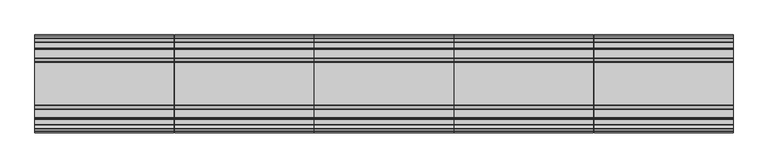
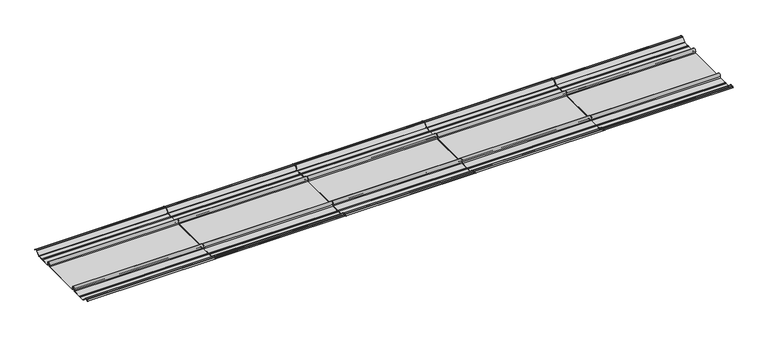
"""IFC4 building model written with IfcOpenShell, lengths in millimetres: proxy geometry, Xlath-LR : Xlath-LR."""

from ifc_helpers import new_model, si_unit, point, frame, frame_2d, origin, place, context, project, spatial, polyline, circle_curve, trimmed, segment, composite_curve, outline, extrude, source, transform, mapped, element, save


def generic_models_709201b5(model_context):
    return source(origin(), model_context, "Body", "SweptSolid", [
        extrude(outline(composite_curve([segment(polyline([(-4.021536, 17.692427), (0.0, 13.8209287), (-0.5628134, 13.2581153), (-4.8173305, 17.3539026)]), True, "CONTINUOUS"), segment(trimmed(circle_curve(frame_2d((-6.6934261, 15.4051)), 2.7051), [point((-4.8173305, 17.3539026))], [point((-6.6934261, 18.1102))], True, "CARTESIAN"), True, "CONTINUOUS"), segment(polyline([(-6.6934261, 18.1102), (-13.8817457, 18.1102)]), True, "CONTINUOUS"), segment(trimmed(circle_curve(frame_2d((-13.8817457, 15.4051)), 2.7051), [point((-13.8817457, 18.1102))], [point((-15.8059623, 17.3064039))], True, "CARTESIAN"), True, "CONTINUOUS"), segment(polyline([(-15.8059623, 17.3064039), (-31.9741011, 0.9434226)]), True, "CONTINUOUS"), segment(trimmed(circle_curve(frame_2d((-34.2325712, 3.175)), 3.175), [point((-31.9741011, 0.9434226))], [point((-34.2325712, 0.0))], False, "CARTESIAN"), True, "CONTINUOUS"), segment(polyline([(-34.2325712, 0.0), (-57.3486405, 0.0)]), True, "CONTINUOUS"), segment(trimmed(circle_curve(frame_2d((-57.3486405, 3.175)), 3.175), [point((-57.3486405, 0.0))], [point((-59.3419174, 0.70367))], False, "CARTESIAN"), True, "CONTINUOUS"), segment(trimmed(circle_curve(frame_2d((-61.3351943, -1.7676601)), 3.175), [point((-59.3419174, 0.70367))], [point((-63.3284712, 0.70367))], True, "CARTESIAN"), True, "CONTINUOUS"), segment(trimmed(circle_curve(frame_2d((-65.3217481, 3.175)), 3.175), [point((-63.3284712, 0.70367))], [point((-65.3217481, 0.0))], False, "CARTESIAN"), True, "CONTINUOUS"), segment(polyline([(-65.3217481, 0.0), (-102.59972, 0.0)]), True, "CONTINUOUS"), segment(trimmed(circle_curve(frame_2d((-102.59972, 3.3362305)), 3.3362305), [point((-102.59972, 0.0))], [point((-105.2911698, 5.3076593))], False, "CARTESIAN"), True, "CONTINUOUS"), segment(trimmed(circle_curve(frame_2d((-111.8031627, 10.0775533)), 8.0720469), [point((-105.2911698, 5.3076593))], [point((-118.3151555, 5.3076593))], True, "CARTESIAN"), True, "CONTINUOUS"), segment(trimmed(circle_curve(frame_2d((-121.0066054, 3.3362305)), 3.3362305), [point((-118.3151555, 5.3076593))], [point((-121.0066054, 0.0))], False, "CARTESIAN"), True, "CONTINUOUS"), segment(polyline([(-121.0066054, 0.0), (-306.0308946, 0.0)]), True, "CONTINUOUS"), segment(trimmed(circle_curve(frame_2d((-306.0308946, 3.3362305)), 3.3362305), [point((-306.0308946, 0.0))], [point((-308.7223445, 5.3076593))], False, "CARTESIAN"), True, "CONTINUOUS"), segment(trimmed(circle_curve(frame_2d((-315.2343373, 10.0775533)), 8.0720469), [point((-308.7223445, 5.3076593))], [point((-321.7463302, 5.3076593))], True, "CARTESIAN"), True, "CONTINUOUS"), segment(trimmed(circle_curve(frame_2d((-324.43778, 3.3362305)), 3.3362305), [point((-321.7463302, 5.3076593))], [point((-324.43778, 0.0))], False, "CARTESIAN"), True, "CONTINUOUS"), segment(polyline([(-324.43778, 0.0), (-361.7157519, 0.0)]), True, "CONTINUOUS"), segment(trimmed(circle_curve(frame_2d((-361.7157519, 3.175)), 3.175), [point((-361.7157519, 0.0))], [point((-363.7090288, 0.70367))], False, "CARTESIAN"), True, "CONTINUOUS"), segment(trimmed(circle_curve(frame_2d((-365.7023057, -1.7676601)), 3.175), [point((-363.7090288, 0.70367))], [point((-367.6955826, 0.70367))], True, "CARTESIAN"), True, "CONTINUOUS"), segment(trimmed(circle_curve(frame_2d((-369.6888595, 3.175)), 3.175), [point((-367.6955826, 0.70367))], [point((-369.6888595, 0.0))], False, "CARTESIAN"), True, "CONTINUOUS"), segment(polyline([(-369.6888595, 0.0), (-391.0183557, 0.0)]), True, "CONTINUOUS"), segment(trimmed(circle_curve(frame_2d((-391.0183557, 3.175)), 3.175), [point((-391.0183557, 0.0))], [point((-393.2768259, 0.9434226))], False, "CARTESIAN"), True, "CONTINUOUS"), segment(polyline([(-393.2768259, 0.9434226), (-409.9092693, 17.7763039)]), True, "CONTINUOUS"), segment(trimmed(circle_curve(frame_2d((-411.8334859, 15.875)), 2.7051), [point((-409.9092693, 17.7763039))], [point((-411.8334859, 18.5801))], True, "CARTESIAN"), True, "CONTINUOUS"), segment(polyline([(-411.8334859, 18.5801), (-420.3440739, 18.5801)]), True, "CONTINUOUS"), segment(trimmed(circle_curve(frame_2d((-420.3440739, 15.875)), 2.7051), [point((-420.3440739, 18.5801))], [point((-422.2201695, 17.8238026))], True, "CARTESIAN"), True, "CONTINUOUS"), segment(polyline([(-422.2201695, 17.8238026), (-426.4855845, 13.717524), (-427.0483979, 14.2803374), (-423.015964, 18.162327)]), True, "CONTINUOUS"), segment(trimmed(circle_curve(frame_2d((-420.8139739, 15.875)), 3.175), [point((-423.015964, 18.162327))], [point((-420.8139739, 19.05))], False, "CARTESIAN"), True, "CONTINUOUS"), segment(polyline([(-420.8139739, 19.05), (-411.8334859, 19.05)]), True, "CONTINUOUS"), segment(trimmed(circle_curve(frame_2d((-411.8334859, 15.875)), 3.175), [point((-411.8334859, 19.05))], [point((-409.5750157, 18.1065774))], False, "CARTESIAN"), True, "CONTINUOUS"), segment(polyline([(-409.5750157, 18.1065774), (-392.9425723, 1.2736961)]), True, "CONTINUOUS"), segment(trimmed(circle_curve(frame_2d((-391.0183557, 3.175)), 2.7051), [point((-392.9425723, 1.2736961))], [point((-391.0183557, 0.4699))], True, "CARTESIAN"), True, "CONTINUOUS"), segment(polyline([(-391.0183557, 0.4699), (-369.8514296, 0.4699)]), True, "CONTINUOUS"), segment(trimmed(circle_curve(frame_2d((-369.8514296, 3.6449)), 3.175), [point((-369.8514296, 0.4699))], [point((-367.9198077, 1.1250862))], True, "CARTESIAN"), True, "CONTINUOUS"), segment(trimmed(circle_curve(frame_2d((-365.7023057, -1.7676601)), 3.6449), [point((-367.9198077, 1.1250862))], [point((-363.4848037, 1.1250862))], False, "CARTESIAN"), True, "CONTINUOUS"), segment(trimmed(circle_curve(frame_2d((-361.5531818, 3.6449)), 3.175), [point((-363.4848037, 1.1250862))], [point((-361.5531818, 0.4699))], True, "CARTESIAN"), True, "CONTINUOUS"), segment(polyline([(-361.5531818, 0.4699), (-324.43778, 0.4699)]), True, "CONTINUOUS"), segment(trimmed(circle_curve(frame_2d((-324.43778, 3.3362305)), 2.8663305), [point((-324.43778, 0.4699))], [point((-322.1254144, 5.0299883))], True, "CARTESIAN"), True, "CONTINUOUS"), segment(trimmed(circle_curve(frame_2d((-315.2343373, 10.0775533)), 8.5419469), [point((-322.1254144, 5.0299883))], [point((-308.3432603, 5.0299883))], False, "CARTESIAN"), True, "CONTINUOUS"), segment(trimmed(circle_curve(frame_2d((-306.0308946, 3.3362305)), 2.8663305), [point((-308.3432603, 5.0299883))], [point((-306.0308946, 0.4699))], True, "CARTESIAN"), True, "CONTINUOUS"), segment(polyline([(-306.0308946, 0.4699), (-121.0066054, 0.4699)]), True, "CONTINUOUS"), segment(trimmed(circle_curve(frame_2d((-121.0066054, 3.3362305)), 2.8663305), [point((-121.0066054, 0.4699))], [point((-118.6942397, 5.0299883))], True, "CARTESIAN"), True, "CONTINUOUS"), segment(trimmed(circle_curve(frame_2d((-111.8031627, 10.0775533)), 8.5419469), [point((-118.6942397, 5.0299883))], [point((-104.9120856, 5.0299883))], False, "CARTESIAN"), True, "CONTINUOUS"), segment(trimmed(circle_curve(frame_2d((-102.59972, 3.3362305)), 2.8663305), [point((-104.9120856, 5.0299883))], [point((-102.59972, 0.4699))], True, "CARTESIAN"), True, "CONTINUOUS"), segment(polyline([(-102.59972, 0.4699), (-65.4843182, 0.4699)]), True, "CONTINUOUS"), segment(trimmed(circle_curve(frame_2d((-65.4843182, 3.6449)), 3.175), [point((-65.4843182, 0.4699))], [point((-63.5526963, 1.1250862))], True, "CARTESIAN"), True, "CONTINUOUS"), segment(trimmed(circle_curve(frame_2d((-61.3351943, -1.7676601)), 3.6449), [point((-63.5526963, 1.1250862))], [point((-59.1176923, 1.1250862))], False, "CARTESIAN"), True, "CONTINUOUS"), segment(trimmed(circle_curve(frame_2d((-57.1860704, 3.6449)), 3.175), [point((-59.1176923, 1.1250862))], [point((-57.1860704, 0.4699))], True, "CARTESIAN"), True, "CONTINUOUS"), segment(polyline([(-57.1860704, 0.4699), (-34.2325712, 0.4699)]), True, "CONTINUOUS"), segment(trimmed(circle_curve(frame_2d((-34.2325712, 3.175)), 2.7051), [point((-34.2325712, 0.4699))], [point((-32.3083547, 1.2736961))], True, "CARTESIAN"), True, "CONTINUOUS"), segment(polyline([(-32.3083547, 1.2736961), (-16.1402159, 17.6366774)]), True, "CONTINUOUS"), segment(trimmed(circle_curve(frame_2d((-13.8817457, 15.4051)), 3.175), [point((-16.1402159, 17.6366774))], [point((-13.8817457, 18.5801))], False, "CARTESIAN"), True, "CONTINUOUS"), segment(polyline([(-13.8817457, 18.5801), (-6.2235261, 18.5801)]), True, "CONTINUOUS"), segment(trimmed(circle_curve(frame_2d((-6.2235261, 15.4051)), 3.175), [point((-6.2235261, 18.5801))], [point((-4.021536, 17.692427))], False, "CARTESIAN"), True, "CONTINUOUS")], self_intersect=False)), frame((2438.4, 0.0, 0.0), z_axis=(1.0, 0.0, 0.0), x_axis=(0.0, 1.0, 0.0)), (0.0, 0.0, 1.0), 606.425),
        extrude(outline(composite_curve([segment(polyline([(-4.021536, 17.692427), (0.0, 13.8209287), (-0.5628134, 13.2581153), (-4.8173305, 17.3539026)]), True, "CONTINUOUS"), segment(trimmed(circle_curve(frame_2d((-6.6934261, 15.4051)), 2.7051), [point((-4.8173305, 17.3539026))], [point((-6.6934261, 18.1102))], True, "CARTESIAN"), True, "CONTINUOUS"), segment(polyline([(-6.6934261, 18.1102), (-13.8817457, 18.1102)]), True, "CONTINUOUS"), segment(trimmed(circle_curve(frame_2d((-13.8817457, 15.4051)), 2.7051), [point((-13.8817457, 18.1102))], [point((-15.8059623, 17.3064039))], True, "CARTESIAN"), True, "CONTINUOUS"), segment(polyline([(-15.8059623, 17.3064039), (-31.9741011, 0.9434226)]), True, "CONTINUOUS"), segment(trimmed(circle_curve(frame_2d((-34.2325712, 3.175)), 3.175), [point((-31.9741011, 0.9434226))], [point((-34.2325712, 0.0))], False, "CARTESIAN"), True, "CONTINUOUS"), segment(polyline([(-34.2325712, 0.0), (-57.3486405, 0.0)]), True, "CONTINUOUS"), segment(trimmed(circle_curve(frame_2d((-57.3486405, 3.175)), 3.175), [point((-57.3486405, 0.0))], [point((-59.3419174, 0.70367))], False, "CARTESIAN"), True, "CONTINUOUS"), segment(trimmed(circle_curve(frame_2d((-61.3351943, -1.7676601)), 3.175), [point((-59.3419174, 0.70367))], [point((-63.3284712, 0.70367))], True, "CARTESIAN"), True, "CONTINUOUS"), segment(trimmed(circle_curve(frame_2d((-65.3217481, 3.175)), 3.175), [point((-63.3284712, 0.70367))], [point((-65.3217481, 0.0))], False, "CARTESIAN"), True, "CONTINUOUS"), segment(polyline([(-65.3217481, 0.0), (-102.59972, 0.0)]), True, "CONTINUOUS"), segment(trimmed(circle_curve(frame_2d((-102.59972, 3.3362305)), 3.3362305), [point((-102.59972, 0.0))], [point((-105.2911698, 5.3076593))], False, "CARTESIAN"), True, "CONTINUOUS"), segment(trimmed(circle_curve(frame_2d((-111.8031627, 10.0775533)), 8.0720469), [point((-105.2911698, 5.3076593))], [point((-118.3151555, 5.3076593))], True, "CARTESIAN"), True, "CONTINUOUS"), segment(trimmed(circle_curve(frame_2d((-121.0066054, 3.3362305)), 3.3362305), [point((-118.3151555, 5.3076593))], [point((-121.0066054, 0.0))], False, "CARTESIAN"), True, "CONTINUOUS"), segment(polyline([(-121.0066054, 0.0), (-306.0308946, 0.0)]), True, "CONTINUOUS"), segment(trimmed(circle_curve(frame_2d((-306.0308946, 3.3362305)), 3.3362305), [point((-306.0308946, 0.0))], [point((-308.7223445, 5.3076593))], False, "CARTESIAN"), True, "CONTINUOUS"), segment(trimmed(circle_curve(frame_2d((-315.2343373, 10.0775533)), 8.0720469), [point((-308.7223445, 5.3076593))], [point((-321.7463302, 5.3076593))], True, "CARTESIAN"), True, "CONTINUOUS"), segment(trimmed(circle_curve(frame_2d((-324.43778, 3.3362305)), 3.3362305), [point((-321.7463302, 5.3076593))], [point((-324.43778, 0.0))], False, "CARTESIAN"), True, "CONTINUOUS"), segment(polyline([(-324.43778, 0.0), (-361.7157519, 0.0)]), True, "CONTINUOUS"), segment(trimmed(circle_curve(frame_2d((-361.7157519, 3.175)), 3.175), [point((-361.7157519, 0.0))], [point((-363.7090288, 0.70367))], False, "CARTESIAN"), True, "CONTINUOUS"), segment(trimmed(circle_curve(frame_2d((-365.7023057, -1.7676601)), 3.175), [point((-363.7090288, 0.70367))], [point((-367.6955826, 0.70367))], True, "CARTESIAN"), True, "CONTINUOUS"), segment(trimmed(circle_curve(frame_2d((-369.6888595, 3.175)), 3.175), [point((-367.6955826, 0.70367))], [point((-369.6888595, 0.0))], False, "CARTESIAN"), True, "CONTINUOUS"), segment(polyline([(-369.6888595, 0.0), (-391.0183557, 0.0)]), True, "CONTINUOUS"), segment(trimmed(circle_curve(frame_2d((-391.0183557, 3.175)), 3.175), [point((-391.0183557, 0.0))], [point((-393.2768259, 0.9434226))], False, "CARTESIAN"), True, "CONTINUOUS"), segment(polyline([(-393.2768259, 0.9434226), (-409.9092693, 17.7763039)]), True, "CONTINUOUS"), segment(trimmed(circle_curve(frame_2d((-411.8334859, 15.875)), 2.7051), [point((-409.9092693, 17.7763039))], [point((-411.8334859, 18.5801))], True, "CARTESIAN"), True, "CONTINUOUS"), segment(polyline([(-411.8334859, 18.5801), (-420.3440739, 18.5801)]), True, "CONTINUOUS"), segment(trimmed(circle_curve(frame_2d((-420.3440739, 15.875)), 2.7051), [point((-420.3440739, 18.5801))], [point((-422.2201695, 17.8238026))], True, "CARTESIAN"), True, "CONTINUOUS"), segment(polyline([(-422.2201695, 17.8238026), (-426.4855845, 13.717524), (-427.0483979, 14.2803374), (-423.015964, 18.162327)]), True, "CONTINUOUS"), segment(trimmed(circle_curve(frame_2d((-420.8139739, 15.875)), 3.175), [point((-423.015964, 18.162327))], [point((-420.8139739, 19.05))], False, "CARTESIAN"), True, "CONTINUOUS"), segment(polyline([(-420.8139739, 19.05), (-411.8334859, 19.05)]), True, "CONTINUOUS"), segment(trimmed(circle_curve(frame_2d((-411.8334859, 15.875)), 3.175), [point((-411.8334859, 19.05))], [point((-409.5750157, 18.1065774))], False, "CARTESIAN"), True, "CONTINUOUS"), segment(polyline([(-409.5750157, 18.1065774), (-392.9425723, 1.2736961)]), True, "CONTINUOUS"), segment(trimmed(circle_curve(frame_2d((-391.0183557, 3.175)), 2.7051), [point((-392.9425723, 1.2736961))], [point((-391.0183557, 0.4699))], True, "CARTESIAN"), True, "CONTINUOUS"), segment(polyline([(-391.0183557, 0.4699), (-369.8514296, 0.4699)]), True, "CONTINUOUS"), segment(trimmed(circle_curve(frame_2d((-369.8514296, 3.6449)), 3.175), [point((-369.8514296, 0.4699))], [point((-367.9198077, 1.1250862))], True, "CARTESIAN"), True, "CONTINUOUS"), segment(trimmed(circle_curve(frame_2d((-365.7023057, -1.7676601)), 3.6449), [point((-367.9198077, 1.1250862))], [point((-363.4848037, 1.1250862))], False, "CARTESIAN"), True, "CONTINUOUS"), segment(trimmed(circle_curve(frame_2d((-361.5531818, 3.6449)), 3.175), [point((-363.4848037, 1.1250862))], [point((-361.5531818, 0.4699))], True, "CARTESIAN"), True, "CONTINUOUS"), segment(polyline([(-361.5531818, 0.4699), (-324.43778, 0.4699)]), True, "CONTINUOUS"), segment(trimmed(circle_curve(frame_2d((-324.43778, 3.3362305)), 2.8663305), [point((-324.43778, 0.4699))], [point((-322.1254144, 5.0299883))], True, "CARTESIAN"), True, "CONTINUOUS"), segment(trimmed(circle_curve(frame_2d((-315.2343373, 10.0775533)), 8.5419469), [point((-322.1254144, 5.0299883))], [point((-308.3432603, 5.0299883))], False, "CARTESIAN"), True, "CONTINUOUS"), segment(trimmed(circle_curve(frame_2d((-306.0308946, 3.3362305)), 2.8663305), [point((-308.3432603, 5.0299883))], [point((-306.0308946, 0.4699))], True, "CARTESIAN"), True, "CONTINUOUS"), segment(polyline([(-306.0308946, 0.4699), (-121.0066054, 0.4699)]), True, "CONTINUOUS"), segment(trimmed(circle_curve(frame_2d((-121.0066054, 3.3362305)), 2.8663305), [point((-121.0066054, 0.4699))], [point((-118.6942397, 5.0299883))], True, "CARTESIAN"), True, "CONTINUOUS"), segment(trimmed(circle_curve(frame_2d((-111.8031627, 10.0775533)), 8.5419469), [point((-118.6942397, 5.0299883))], [point((-104.9120856, 5.0299883))], False, "CARTESIAN"), True, "CONTINUOUS"), segment(trimmed(circle_curve(frame_2d((-102.59972, 3.3362305)), 2.8663305), [point((-104.9120856, 5.0299883))], [point((-102.59972, 0.4699))], True, "CARTESIAN"), True, "CONTINUOUS"), segment(polyline([(-102.59972, 0.4699), (-65.4843182, 0.4699)]), True, "CONTINUOUS"), segment(trimmed(circle_curve(frame_2d((-65.4843182, 3.6449)), 3.175), [point((-65.4843182, 0.4699))], [point((-63.5526963, 1.1250862))], True, "CARTESIAN"), True, "CONTINUOUS"), segment(trimmed(circle_curve(frame_2d((-61.3351943, -1.7676601)), 3.6449), [point((-63.5526963, 1.1250862))], [point((-59.1176923, 1.1250862))], False, "CARTESIAN"), True, "CONTINUOUS"), segment(trimmed(circle_curve(frame_2d((-57.1860704, 3.6449)), 3.175), [point((-59.1176923, 1.1250862))], [point((-57.1860704, 0.4699))], True, "CARTESIAN"), True, "CONTINUOUS"), segment(polyline([(-57.1860704, 0.4699), (-34.2325712, 0.4699)]), True, "CONTINUOUS"), segment(trimmed(circle_curve(frame_2d((-34.2325712, 3.175)), 2.7051), [point((-34.2325712, 0.4699))], [point((-32.3083547, 1.2736961))], True, "CARTESIAN"), True, "CONTINUOUS"), segment(polyline([(-32.3083547, 1.2736961), (-16.1402159, 17.6366774)]), True, "CONTINUOUS"), segment(trimmed(circle_curve(frame_2d((-13.8817457, 15.4051)), 3.175), [point((-16.1402159, 17.6366774))], [point((-13.8817457, 18.5801))], False, "CARTESIAN"), True, "CONTINUOUS"), segment(polyline([(-13.8817457, 18.5801), (-6.2235261, 18.5801)]), True, "CONTINUOUS"), segment(trimmed(circle_curve(frame_2d((-6.2235261, 15.4051)), 3.175), [point((-6.2235261, 18.5801))], [point((-4.021536, 17.692427))], False, "CARTESIAN"), True, "CONTINUOUS")], self_intersect=False)), frame((1828.8, 0.0, 0.0), z_axis=(1.0, 0.0, 0.0), x_axis=(0.0, 1.0, 0.0)), (0.0, 0.0, 1.0), 606.425),
        extrude(outline(composite_curve([segment(polyline([(-4.021536, 17.692427), (0.0, 13.8209287), (-0.5628134, 13.2581153), (-4.8173305, 17.3539026)]), True, "CONTINUOUS"), segment(trimmed(circle_curve(frame_2d((-6.6934261, 15.4051)), 2.7051), [point((-4.8173305, 17.3539026))], [point((-6.6934261, 18.1102))], True, "CARTESIAN"), True, "CONTINUOUS"), segment(polyline([(-6.6934261, 18.1102), (-13.8817457, 18.1102)]), True, "CONTINUOUS"), segment(trimmed(circle_curve(frame_2d((-13.8817457, 15.4051)), 2.7051), [point((-13.8817457, 18.1102))], [point((-15.8059623, 17.3064039))], True, "CARTESIAN"), True, "CONTINUOUS"), segment(polyline([(-15.8059623, 17.3064039), (-31.9741011, 0.9434226)]), True, "CONTINUOUS"), segment(trimmed(circle_curve(frame_2d((-34.2325712, 3.175)), 3.175), [point((-31.9741011, 0.9434226))], [point((-34.2325712, 0.0))], False, "CARTESIAN"), True, "CONTINUOUS"), segment(polyline([(-34.2325712, 0.0), (-57.3486405, 0.0)]), True, "CONTINUOUS"), segment(trimmed(circle_curve(frame_2d((-57.3486405, 3.175)), 3.175), [point((-57.3486405, 0.0))], [point((-59.3419174, 0.70367))], False, "CARTESIAN"), True, "CONTINUOUS"), segment(trimmed(circle_curve(frame_2d((-61.3351943, -1.7676601)), 3.175), [point((-59.3419174, 0.70367))], [point((-63.3284712, 0.70367))], True, "CARTESIAN"), True, "CONTINUOUS"), segment(trimmed(circle_curve(frame_2d((-65.3217481, 3.175)), 3.175), [point((-63.3284712, 0.70367))], [point((-65.3217481, 0.0))], False, "CARTESIAN"), True, "CONTINUOUS"), segment(polyline([(-65.3217481, 0.0), (-102.59972, 0.0)]), True, "CONTINUOUS"), segment(trimmed(circle_curve(frame_2d((-102.59972, 3.3362305)), 3.3362305), [point((-102.59972, 0.0))], [point((-105.2911698, 5.3076593))], False, "CARTESIAN"), True, "CONTINUOUS"), segment(trimmed(circle_curve(frame_2d((-111.8031627, 10.0775533)), 8.0720469), [point((-105.2911698, 5.3076593))], [point((-118.3151555, 5.3076593))], True, "CARTESIAN"), True, "CONTINUOUS"), segment(trimmed(circle_curve(frame_2d((-121.0066054, 3.3362305)), 3.3362305), [point((-118.3151555, 5.3076593))], [point((-121.0066054, 0.0))], False, "CARTESIAN"), True, "CONTINUOUS"), segment(polyline([(-121.0066054, 0.0), (-306.0308946, 0.0)]), True, "CONTINUOUS"), segment(trimmed(circle_curve(frame_2d((-306.0308946, 3.3362305)), 3.3362305), [point((-306.0308946, 0.0))], [point((-308.7223445, 5.3076593))], False, "CARTESIAN"), True, "CONTINUOUS"), segment(trimmed(circle_curve(frame_2d((-315.2343373, 10.0775533)), 8.0720469), [point((-308.7223445, 5.3076593))], [point((-321.7463302, 5.3076593))], True, "CARTESIAN"), True, "CONTINUOUS"), segment(trimmed(circle_curve(frame_2d((-324.43778, 3.3362305)), 3.3362305), [point((-321.7463302, 5.3076593))], [point((-324.43778, 0.0))], False, "CARTESIAN"), True, "CONTINUOUS"), segment(polyline([(-324.43778, 0.0), (-361.7157519, 0.0)]), True, "CONTINUOUS"), segment(trimmed(circle_curve(frame_2d((-361.7157519, 3.175)), 3.175), [point((-361.7157519, 0.0))], [point((-363.7090288, 0.70367))], False, "CARTESIAN"), True, "CONTINUOUS"), segment(trimmed(circle_curve(frame_2d((-365.7023057, -1.7676601)), 3.175), [point((-363.7090288, 0.70367))], [point((-367.6955826, 0.70367))], True, "CARTESIAN"), True, "CONTINUOUS"), segment(trimmed(circle_curve(frame_2d((-369.6888595, 3.175)), 3.175), [point((-367.6955826, 0.70367))], [point((-369.6888595, 0.0))], False, "CARTESIAN"), True, "CONTINUOUS"), segment(polyline([(-369.6888595, 0.0), (-391.0183557, 0.0)]), True, "CONTINUOUS"), segment(trimmed(circle_curve(frame_2d((-391.0183557, 3.175)), 3.175), [point((-391.0183557, 0.0))], [point((-393.2768259, 0.9434226))], False, "CARTESIAN"), True, "CONTINUOUS"), segment(polyline([(-393.2768259, 0.9434226), (-409.9092693, 17.7763039)]), True, "CONTINUOUS"), segment(trimmed(circle_curve(frame_2d((-411.8334859, 15.875)), 2.7051), [point((-409.9092693, 17.7763039))], [point((-411.8334859, 18.5801))], True, "CARTESIAN"), True, "CONTINUOUS"), segment(polyline([(-411.8334859, 18.5801), (-420.3440739, 18.5801)]), True, "CONTINUOUS"), segment(trimmed(circle_curve(frame_2d((-420.3440739, 15.875)), 2.7051), [point((-420.3440739, 18.5801))], [point((-422.2201695, 17.8238026))], True, "CARTESIAN"), True, "CONTINUOUS"), segment(polyline([(-422.2201695, 17.8238026), (-426.4855845, 13.717524), (-427.0483979, 14.2803374), (-423.015964, 18.162327)]), True, "CONTINUOUS"), segment(trimmed(circle_curve(frame_2d((-420.8139739, 15.875)), 3.175), [point((-423.015964, 18.162327))], [point((-420.8139739, 19.05))], False, "CARTESIAN"), True, "CONTINUOUS"), segment(polyline([(-420.8139739, 19.05), (-411.8334859, 19.05)]), True, "CONTINUOUS"), segment(trimmed(circle_curve(frame_2d((-411.8334859, 15.875)), 3.175), [point((-411.8334859, 19.05))], [point((-409.5750157, 18.1065774))], False, "CARTESIAN"), True, "CONTINUOUS"), segment(polyline([(-409.5750157, 18.1065774), (-392.9425723, 1.2736961)]), True, "CONTINUOUS"), segment(trimmed(circle_curve(frame_2d((-391.0183557, 3.175)), 2.7051), [point((-392.9425723, 1.2736961))], [point((-391.0183557, 0.4699))], True, "CARTESIAN"), True, "CONTINUOUS"), segment(polyline([(-391.0183557, 0.4699), (-369.8514296, 0.4699)]), True, "CONTINUOUS"), segment(trimmed(circle_curve(frame_2d((-369.8514296, 3.6449)), 3.175), [point((-369.8514296, 0.4699))], [point((-367.9198077, 1.1250862))], True, "CARTESIAN"), True, "CONTINUOUS"), segment(trimmed(circle_curve(frame_2d((-365.7023057, -1.7676601)), 3.6449), [point((-367.9198077, 1.1250862))], [point((-363.4848037, 1.1250862))], False, "CARTESIAN"), True, "CONTINUOUS"), segment(trimmed(circle_curve(frame_2d((-361.5531818, 3.6449)), 3.175), [point((-363.4848037, 1.1250862))], [point((-361.5531818, 0.4699))], True, "CARTESIAN"), True, "CONTINUOUS"), segment(polyline([(-361.5531818, 0.4699), (-324.43778, 0.4699)]), True, "CONTINUOUS"), segment(trimmed(circle_curve(frame_2d((-324.43778, 3.3362305)), 2.8663305), [point((-324.43778, 0.4699))], [point((-322.1254144, 5.0299883))], True, "CARTESIAN"), True, "CONTINUOUS"), segment(trimmed(circle_curve(frame_2d((-315.2343373, 10.0775533)), 8.5419469), [point((-322.1254144, 5.0299883))], [point((-308.3432603, 5.0299883))], False, "CARTESIAN"), True, "CONTINUOUS"), segment(trimmed(circle_curve(frame_2d((-306.0308946, 3.3362305)), 2.8663305), [point((-308.3432603, 5.0299883))], [point((-306.0308946, 0.4699))], True, "CARTESIAN"), True, "CONTINUOUS"), segment(polyline([(-306.0308946, 0.4699), (-121.0066054, 0.4699)]), True, "CONTINUOUS"), segment(trimmed(circle_curve(frame_2d((-121.0066054, 3.3362305)), 2.8663305), [point((-121.0066054, 0.4699))], [point((-118.6942397, 5.0299883))], True, "CARTESIAN"), True, "CONTINUOUS"), segment(trimmed(circle_curve(frame_2d((-111.8031627, 10.0775533)), 8.5419469), [point((-118.6942397, 5.0299883))], [point((-104.9120856, 5.0299883))], False, "CARTESIAN"), True, "CONTINUOUS"), segment(trimmed(circle_curve(frame_2d((-102.59972, 3.3362305)), 2.8663305), [point((-104.9120856, 5.0299883))], [point((-102.59972, 0.4699))], True, "CARTESIAN"), True, "CONTINUOUS"), segment(polyline([(-102.59972, 0.4699), (-65.4843182, 0.4699)]), True, "CONTINUOUS"), segment(trimmed(circle_curve(frame_2d((-65.4843182, 3.6449)), 3.175), [point((-65.4843182, 0.4699))], [point((-63.5526963, 1.1250862))], True, "CARTESIAN"), True, "CONTINUOUS"), segment(trimmed(circle_curve(frame_2d((-61.3351943, -1.7676601)), 3.6449), [point((-63.5526963, 1.1250862))], [point((-59.1176923, 1.1250862))], False, "CARTESIAN"), True, "CONTINUOUS"), segment(trimmed(circle_curve(frame_2d((-57.1860704, 3.6449)), 3.175), [point((-59.1176923, 1.1250862))], [point((-57.1860704, 0.4699))], True, "CARTESIAN"), True, "CONTINUOUS"), segment(polyline([(-57.1860704, 0.4699), (-34.2325712, 0.4699)]), True, "CONTINUOUS"), segment(trimmed(circle_curve(frame_2d((-34.2325712, 3.175)), 2.7051), [point((-34.2325712, 0.4699))], [point((-32.3083547, 1.2736961))], True, "CARTESIAN"), True, "CONTINUOUS"), segment(polyline([(-32.3083547, 1.2736961), (-16.1402159, 17.6366774)]), True, "CONTINUOUS"), segment(trimmed(circle_curve(frame_2d((-13.8817457, 15.4051)), 3.175), [point((-16.1402159, 17.6366774))], [point((-13.8817457, 18.5801))], False, "CARTESIAN"), True, "CONTINUOUS"), segment(polyline([(-13.8817457, 18.5801), (-6.2235261, 18.5801)]), True, "CONTINUOUS"), segment(trimmed(circle_curve(frame_2d((-6.2235261, 15.4051)), 3.175), [point((-6.2235261, 18.5801))], [point((-4.021536, 17.692427))], False, "CARTESIAN"), True, "CONTINUOUS")], self_intersect=False)), frame((1219.2, 0.0, 0.0), z_axis=(1.0, 0.0, 0.0), x_axis=(0.0, 1.0, 0.0)), (0.0, 0.0, 1.0), 606.425),
        extrude(outline(composite_curve([segment(polyline([(-4.021536, 17.692427), (0.0, 13.8209287), (-0.5628134, 13.2581153), (-4.8173305, 17.3539026)]), True, "CONTINUOUS"), segment(trimmed(circle_curve(frame_2d((-6.6934261, 15.4051)), 2.7051), [point((-4.8173305, 17.3539026))], [point((-6.6934261, 18.1102))], True, "CARTESIAN"), True, "CONTINUOUS"), segment(polyline([(-6.6934261, 18.1102), (-13.8817457, 18.1102)]), True, "CONTINUOUS"), segment(trimmed(circle_curve(frame_2d((-13.8817457, 15.4051)), 2.7051), [point((-13.8817457, 18.1102))], [point((-15.8059623, 17.3064039))], True, "CARTESIAN"), True, "CONTINUOUS"), segment(polyline([(-15.8059623, 17.3064039), (-31.9741011, 0.9434226)]), True, "CONTINUOUS"), segment(trimmed(circle_curve(frame_2d((-34.2325712, 3.175)), 3.175), [point((-31.9741011, 0.9434226))], [point((-34.2325712, 0.0))], False, "CARTESIAN"), True, "CONTINUOUS"), segment(polyline([(-34.2325712, 0.0), (-57.3486405, 0.0)]), True, "CONTINUOUS"), segment(trimmed(circle_curve(frame_2d((-57.3486405, 3.175)), 3.175), [point((-57.3486405, 0.0))], [point((-59.3419174, 0.70367))], False, "CARTESIAN"), True, "CONTINUOUS"), segment(trimmed(circle_curve(frame_2d((-61.3351943, -1.7676601)), 3.175), [point((-59.3419174, 0.70367))], [point((-63.3284712, 0.70367))], True, "CARTESIAN"), True, "CONTINUOUS"), segment(trimmed(circle_curve(frame_2d((-65.3217481, 3.175)), 3.175), [point((-63.3284712, 0.70367))], [point((-65.3217481, 0.0))], False, "CARTESIAN"), True, "CONTINUOUS"), segment(polyline([(-65.3217481, 0.0), (-102.59972, 0.0)]), True, "CONTINUOUS"), segment(trimmed(circle_curve(frame_2d((-102.59972, 3.3362305)), 3.3362305), [point((-102.59972, 0.0))], [point((-105.2911698, 5.3076593))], False, "CARTESIAN"), True, "CONTINUOUS"), segment(trimmed(circle_curve(frame_2d((-111.8031627, 10.0775533)), 8.0720469), [point((-105.2911698, 5.3076593))], [point((-118.3151555, 5.3076593))], True, "CARTESIAN"), True, "CONTINUOUS"), segment(trimmed(circle_curve(frame_2d((-121.0066054, 3.3362305)), 3.3362305), [point((-118.3151555, 5.3076593))], [point((-121.0066054, 0.0))], False, "CARTESIAN"), True, "CONTINUOUS"), segment(polyline([(-121.0066054, 0.0), (-306.0308946, 0.0)]), True, "CONTINUOUS"), segment(trimmed(circle_curve(frame_2d((-306.0308946, 3.3362305)), 3.3362305), [point((-306.0308946, 0.0))], [point((-308.7223445, 5.3076593))], False, "CARTESIAN"), True, "CONTINUOUS"), segment(trimmed(circle_curve(frame_2d((-315.2343373, 10.0775533)), 8.0720469), [point((-308.7223445, 5.3076593))], [point((-321.7463302, 5.3076593))], True, "CARTESIAN"), True, "CONTINUOUS"), segment(trimmed(circle_curve(frame_2d((-324.43778, 3.3362305)), 3.3362305), [point((-321.7463302, 5.3076593))], [point((-324.43778, 0.0))], False, "CARTESIAN"), True, "CONTINUOUS"), segment(polyline([(-324.43778, 0.0), (-361.7157519, 0.0)]), True, "CONTINUOUS"), segment(trimmed(circle_curve(frame_2d((-361.7157519, 3.175)), 3.175), [point((-361.7157519, 0.0))], [point((-363.7090288, 0.70367))], False, "CARTESIAN"), True, "CONTINUOUS"), segment(trimmed(circle_curve(frame_2d((-365.7023057, -1.7676601)), 3.175), [point((-363.7090288, 0.70367))], [point((-367.6955826, 0.70367))], True, "CARTESIAN"), True, "CONTINUOUS"), segment(trimmed(circle_curve(frame_2d((-369.6888595, 3.175)), 3.175), [point((-367.6955826, 0.70367))], [point((-369.6888595, 0.0))], False, "CARTESIAN"), True, "CONTINUOUS"), segment(polyline([(-369.6888595, 0.0), (-391.0183557, 0.0)]), True, "CONTINUOUS"), segment(trimmed(circle_curve(frame_2d((-391.0183557, 3.175)), 3.175), [point((-391.0183557, 0.0))], [point((-393.2768259, 0.9434226))], False, "CARTESIAN"), True, "CONTINUOUS"), segment(polyline([(-393.2768259, 0.9434226), (-409.9092693, 17.7763039)]), True, "CONTINUOUS"), segment(trimmed(circle_curve(frame_2d((-411.8334859, 15.875)), 2.7051), [point((-409.9092693, 17.7763039))], [point((-411.8334859, 18.5801))], True, "CARTESIAN"), True, "CONTINUOUS"), segment(polyline([(-411.8334859, 18.5801), (-420.3440739, 18.5801)]), True, "CONTINUOUS"), segment(trimmed(circle_curve(frame_2d((-420.3440739, 15.875)), 2.7051), [point((-420.3440739, 18.5801))], [point((-422.2201695, 17.8238026))], True, "CARTESIAN"), True, "CONTINUOUS"), segment(polyline([(-422.2201695, 17.8238026), (-426.4855845, 13.717524), (-427.0483979, 14.2803374), (-423.015964, 18.162327)]), True, "CONTINUOUS"), segment(trimmed(circle_curve(frame_2d((-420.8139739, 15.875)), 3.175), [point((-423.015964, 18.162327))], [point((-420.8139739, 19.05))], False, "CARTESIAN"), True, "CONTINUOUS"), segment(polyline([(-420.8139739, 19.05), (-411.8334859, 19.05)]), True, "CONTINUOUS"), segment(trimmed(circle_curve(frame_2d((-411.8334859, 15.875)), 3.175), [point((-411.8334859, 19.05))], [point((-409.5750157, 18.1065774))], False, "CARTESIAN"), True, "CONTINUOUS"), segment(polyline([(-409.5750157, 18.1065774), (-392.9425723, 1.2736961)]), True, "CONTINUOUS"), segment(trimmed(circle_curve(frame_2d((-391.0183557, 3.175)), 2.7051), [point((-392.9425723, 1.2736961))], [point((-391.0183557, 0.4699))], True, "CARTESIAN"), True, "CONTINUOUS"), segment(polyline([(-391.0183557, 0.4699), (-369.8514296, 0.4699)]), True, "CONTINUOUS"), segment(trimmed(circle_curve(frame_2d((-369.8514296, 3.6449)), 3.175), [point((-369.8514296, 0.4699))], [point((-367.9198077, 1.1250862))], True, "CARTESIAN"), True, "CONTINUOUS"), segment(trimmed(circle_curve(frame_2d((-365.7023057, -1.7676601)), 3.6449), [point((-367.9198077, 1.1250862))], [point((-363.4848037, 1.1250862))], False, "CARTESIAN"), True, "CONTINUOUS"), segment(trimmed(circle_curve(frame_2d((-361.5531818, 3.6449)), 3.175), [point((-363.4848037, 1.1250862))], [point((-361.5531818, 0.4699))], True, "CARTESIAN"), True, "CONTINUOUS"), segment(polyline([(-361.5531818, 0.4699), (-324.43778, 0.4699)]), True, "CONTINUOUS"), segment(trimmed(circle_curve(frame_2d((-324.43778, 3.3362305)), 2.8663305), [point((-324.43778, 0.4699))], [point((-322.1254144, 5.0299883))], True, "CARTESIAN"), True, "CONTINUOUS"), segment(trimmed(circle_curve(frame_2d((-315.2343373, 10.0775533)), 8.5419469), [point((-322.1254144, 5.0299883))], [point((-308.3432603, 5.0299883))], False, "CARTESIAN"), True, "CONTINUOUS"), segment(trimmed(circle_curve(frame_2d((-306.0308946, 3.3362305)), 2.8663305), [point((-308.3432603, 5.0299883))], [point((-306.0308946, 0.4699))], True, "CARTESIAN"), True, "CONTINUOUS"), segment(polyline([(-306.0308946, 0.4699), (-121.0066054, 0.4699)]), True, "CONTINUOUS"), segment(trimmed(circle_curve(frame_2d((-121.0066054, 3.3362305)), 2.8663305), [point((-121.0066054, 0.4699))], [point((-118.6942397, 5.0299883))], True, "CARTESIAN"), True, "CONTINUOUS"), segment(trimmed(circle_curve(frame_2d((-111.8031627, 10.0775533)), 8.5419469), [point((-118.6942397, 5.0299883))], [point((-104.9120856, 5.0299883))], False, "CARTESIAN"), True, "CONTINUOUS"), segment(trimmed(circle_curve(frame_2d((-102.59972, 3.3362305)), 2.8663305), [point((-104.9120856, 5.0299883))], [point((-102.59972, 0.4699))], True, "CARTESIAN"), True, "CONTINUOUS"), segment(polyline([(-102.59972, 0.4699), (-65.4843182, 0.4699)]), True, "CONTINUOUS"), segment(trimmed(circle_curve(frame_2d((-65.4843182, 3.6449)), 3.175), [point((-65.4843182, 0.4699))], [point((-63.5526963, 1.1250862))], True, "CARTESIAN"), True, "CONTINUOUS"), segment(trimmed(circle_curve(frame_2d((-61.3351943, -1.7676601)), 3.6449), [point((-63.5526963, 1.1250862))], [point((-59.1176923, 1.1250862))], False, "CARTESIAN"), True, "CONTINUOUS"), segment(trimmed(circle_curve(frame_2d((-57.1860704, 3.6449)), 3.175), [point((-59.1176923, 1.1250862))], [point((-57.1860704, 0.4699))], True, "CARTESIAN"), True, "CONTINUOUS"), segment(polyline([(-57.1860704, 0.4699), (-34.2325712, 0.4699)]), True, "CONTINUOUS"), segment(trimmed(circle_curve(frame_2d((-34.2325712, 3.175)), 2.7051), [point((-34.2325712, 0.4699))], [point((-32.3083547, 1.2736961))], True, "CARTESIAN"), True, "CONTINUOUS"), segment(polyline([(-32.3083547, 1.2736961), (-16.1402159, 17.6366774)]), True, "CONTINUOUS"), segment(trimmed(circle_curve(frame_2d((-13.8817457, 15.4051)), 3.175), [point((-16.1402159, 17.6366774))], [point((-13.8817457, 18.5801))], False, "CARTESIAN"), True, "CONTINUOUS"), segment(polyline([(-13.8817457, 18.5801), (-6.2235261, 18.5801)]), True, "CONTINUOUS"), segment(trimmed(circle_curve(frame_2d((-6.2235261, 15.4051)), 3.175), [point((-6.2235261, 18.5801))], [point((-4.021536, 17.692427))], False, "CARTESIAN"), True, "CONTINUOUS")], self_intersect=False)), frame((609.6, 0.0, 0.0), z_axis=(1.0, 0.0, 0.0), x_axis=(0.0, 1.0, 0.0)), (0.0, 0.0, 1.0), 606.425),
        extrude(outline(composite_curve([segment(polyline([(-4.021536, 17.692427), (0.0, 13.8209287), (-0.5628134, 13.2581153), (-4.8173305, 17.3539026)]), True, "CONTINUOUS"), segment(trimmed(circle_curve(frame_2d((-6.6934261, 15.4051)), 2.7051), [point((-4.8173305, 17.3539026))], [point((-6.6934261, 18.1102))], True, "CARTESIAN"), True, "CONTINUOUS"), segment(polyline([(-6.6934261, 18.1102), (-13.8817457, 18.1102)]), True, "CONTINUOUS"), segment(trimmed(circle_curve(frame_2d((-13.8817457, 15.4051)), 2.7051), [point((-13.8817457, 18.1102))], [point((-15.8059623, 17.3064039))], True, "CARTESIAN"), True, "CONTINUOUS"), segment(polyline([(-15.8059623, 17.3064039), (-31.9741011, 0.9434226)]), True, "CONTINUOUS"), segment(trimmed(circle_curve(frame_2d((-34.2325712, 3.175)), 3.175), [point((-31.9741011, 0.9434226))], [point((-34.2325712, 0.0))], False, "CARTESIAN"), True, "CONTINUOUS"), segment(polyline([(-34.2325712, 0.0), (-57.3486405, 0.0)]), True, "CONTINUOUS"), segment(trimmed(circle_curve(frame_2d((-57.3486405, 3.175)), 3.175), [point((-57.3486405, 0.0))], [point((-59.3419174, 0.70367))], False, "CARTESIAN"), True, "CONTINUOUS"), segment(trimmed(circle_curve(frame_2d((-61.3351943, -1.7676601)), 3.175), [point((-59.3419174, 0.70367))], [point((-63.3284712, 0.70367))], True, "CARTESIAN"), True, "CONTINUOUS"), segment(trimmed(circle_curve(frame_2d((-65.3217481, 3.175)), 3.175), [point((-63.3284712, 0.70367))], [point((-65.3217481, 0.0))], False, "CARTESIAN"), True, "CONTINUOUS"), segment(polyline([(-65.3217481, 0.0), (-102.59972, 0.0)]), True, "CONTINUOUS"), segment(trimmed(circle_curve(frame_2d((-102.59972, 3.3362305)), 3.3362305), [point((-102.59972, 0.0))], [point((-105.2911698, 5.3076593))], False, "CARTESIAN"), True, "CONTINUOUS"), segment(trimmed(circle_curve(frame_2d((-111.8031627, 10.0775533)), 8.0720469), [point((-105.2911698, 5.3076593))], [point((-118.3151555, 5.3076593))], True, "CARTESIAN"), True, "CONTINUOUS"), segment(trimmed(circle_curve(frame_2d((-121.0066054, 3.3362305)), 3.3362305), [point((-118.3151555, 5.3076593))], [point((-121.0066054, 0.0))], False, "CARTESIAN"), True, "CONTINUOUS"), segment(polyline([(-121.0066054, 0.0), (-306.0308946, 0.0)]), True, "CONTINUOUS"), segment(trimmed(circle_curve(frame_2d((-306.0308946, 3.3362305)), 3.3362305), [point((-306.0308946, 0.0))], [point((-308.7223445, 5.3076593))], False, "CARTESIAN"), True, "CONTINUOUS"), segment(trimmed(circle_curve(frame_2d((-315.2343373, 10.0775533)), 8.0720469), [point((-308.7223445, 5.3076593))], [point((-321.7463302, 5.3076593))], True, "CARTESIAN"), True, "CONTINUOUS"), segment(trimmed(circle_curve(frame_2d((-324.43778, 3.3362305)), 3.3362305), [point((-321.7463302, 5.3076593))], [point((-324.43778, 0.0))], False, "CARTESIAN"), True, "CONTINUOUS"), segment(polyline([(-324.43778, 0.0), (-361.7157519, 0.0)]), True, "CONTINUOUS"), segment(trimmed(circle_curve(frame_2d((-361.7157519, 3.175)), 3.175), [point((-361.7157519, 0.0))], [point((-363.7090288, 0.70367))], False, "CARTESIAN"), True, "CONTINUOUS"), segment(trimmed(circle_curve(frame_2d((-365.7023057, -1.7676601)), 3.175), [point((-363.7090288, 0.70367))], [point((-367.6955826, 0.70367))], True, "CARTESIAN"), True, "CONTINUOUS"), segment(trimmed(circle_curve(frame_2d((-369.6888595, 3.175)), 3.175), [point((-367.6955826, 0.70367))], [point((-369.6888595, 0.0))], False, "CARTESIAN"), True, "CONTINUOUS"), segment(polyline([(-369.6888595, 0.0), (-391.0183557, 0.0)]), True, "CONTINUOUS"), segment(trimmed(circle_curve(frame_2d((-391.0183557, 3.175)), 3.175), [point((-391.0183557, 0.0))], [point((-393.2768259, 0.9434226))], False, "CARTESIAN"), True, "CONTINUOUS"), segment(polyline([(-393.2768259, 0.9434226), (-409.9092693, 17.7763039)]), True, "CONTINUOUS"), segment(trimmed(circle_curve(frame_2d((-411.8334859, 15.875)), 2.7051), [point((-409.9092693, 17.7763039))], [point((-411.8334859, 18.5801))], True, "CARTESIAN"), True, "CONTINUOUS"), segment(polyline([(-411.8334859, 18.5801), (-420.3440739, 18.5801)]), True, "CONTINUOUS"), segment(trimmed(circle_curve(frame_2d((-420.3440739, 15.875)), 2.7051), [point((-420.3440739, 18.5801))], [point((-422.2201695, 17.8238026))], True, "CARTESIAN"), True, "CONTINUOUS"), segment(polyline([(-422.2201695, 17.8238026), (-426.4855845, 13.717524), (-427.0483979, 14.2803374), (-423.015964, 18.162327)]), True, "CONTINUOUS"), segment(trimmed(circle_curve(frame_2d((-420.8139739, 15.875)), 3.175), [point((-423.015964, 18.162327))], [point((-420.8139739, 19.05))], False, "CARTESIAN"), True, "CONTINUOUS"), segment(polyline([(-420.8139739, 19.05), (-411.8334859, 19.05)]), True, "CONTINUOUS"), segment(trimmed(circle_curve(frame_2d((-411.8334859, 15.875)), 3.175), [point((-411.8334859, 19.05))], [point((-409.5750157, 18.1065774))], False, "CARTESIAN"), True, "CONTINUOUS"), segment(polyline([(-409.5750157, 18.1065774), (-392.9425723, 1.2736961)]), True, "CONTINUOUS"), segment(trimmed(circle_curve(frame_2d((-391.0183557, 3.175)), 2.7051), [point((-392.9425723, 1.2736961))], [point((-391.0183557, 0.4699))], True, "CARTESIAN"), True, "CONTINUOUS"), segment(polyline([(-391.0183557, 0.4699), (-369.8514296, 0.4699)]), True, "CONTINUOUS"), segment(trimmed(circle_curve(frame_2d((-369.8514296, 3.6449)), 3.175), [point((-369.8514296, 0.4699))], [point((-367.9198077, 1.1250862))], True, "CARTESIAN"), True, "CONTINUOUS"), segment(trimmed(circle_curve(frame_2d((-365.7023057, -1.7676601)), 3.6449), [point((-367.9198077, 1.1250862))], [point((-363.4848037, 1.1250862))], False, "CARTESIAN"), True, "CONTINUOUS"), segment(trimmed(circle_curve(frame_2d((-361.5531818, 3.6449)), 3.175), [point((-363.4848037, 1.1250862))], [point((-361.5531818, 0.4699))], True, "CARTESIAN"), True, "CONTINUOUS"), segment(polyline([(-361.5531818, 0.4699), (-324.43778, 0.4699)]), True, "CONTINUOUS"), segment(trimmed(circle_curve(frame_2d((-324.43778, 3.3362305)), 2.8663305), [point((-324.43778, 0.4699))], [point((-322.1254144, 5.0299883))], True, "CARTESIAN"), True, "CONTINUOUS"), segment(trimmed(circle_curve(frame_2d((-315.2343373, 10.0775533)), 8.5419469), [point((-322.1254144, 5.0299883))], [point((-308.3432603, 5.0299883))], False, "CARTESIAN"), True, "CONTINUOUS"), segment(trimmed(circle_curve(frame_2d((-306.0308946, 3.3362305)), 2.8663305), [point((-308.3432603, 5.0299883))], [point((-306.0308946, 0.4699))], True, "CARTESIAN"), True, "CONTINUOUS"), segment(polyline([(-306.0308946, 0.4699), (-121.0066054, 0.4699)]), True, "CONTINUOUS"), segment(trimmed(circle_curve(frame_2d((-121.0066054, 3.3362305)), 2.8663305), [point((-121.0066054, 0.4699))], [point((-118.6942397, 5.0299883))], True, "CARTESIAN"), True, "CONTINUOUS"), segment(trimmed(circle_curve(frame_2d((-111.8031627, 10.0775533)), 8.5419469), [point((-118.6942397, 5.0299883))], [point((-104.9120856, 5.0299883))], False, "CARTESIAN"), True, "CONTINUOUS"), segment(trimmed(circle_curve(frame_2d((-102.59972, 3.3362305)), 2.8663305), [point((-104.9120856, 5.0299883))], [point((-102.59972, 0.4699))], True, "CARTESIAN"), True, "CONTINUOUS"), segment(polyline([(-102.59972, 0.4699), (-65.4843182, 0.4699)]), True, "CONTINUOUS"), segment(trimmed(circle_curve(frame_2d((-65.4843182, 3.6449)), 3.175), [point((-65.4843182, 0.4699))], [point((-63.5526963, 1.1250862))], True, "CARTESIAN"), True, "CONTINUOUS"), segment(trimmed(circle_curve(frame_2d((-61.3351943, -1.7676601)), 3.6449), [point((-63.5526963, 1.1250862))], [point((-59.1176923, 1.1250862))], False, "CARTESIAN"), True, "CONTINUOUS"), segment(trimmed(circle_curve(frame_2d((-57.1860704, 3.6449)), 3.175), [point((-59.1176923, 1.1250862))], [point((-57.1860704, 0.4699))], True, "CARTESIAN"), True, "CONTINUOUS"), segment(polyline([(-57.1860704, 0.4699), (-34.2325712, 0.4699)]), True, "CONTINUOUS"), segment(trimmed(circle_curve(frame_2d((-34.2325712, 3.175)), 2.7051), [point((-34.2325712, 0.4699))], [point((-32.3083547, 1.2736961))], True, "CARTESIAN"), True, "CONTINUOUS"), segment(polyline([(-32.3083547, 1.2736961), (-16.1402159, 17.6366774)]), True, "CONTINUOUS"), segment(trimmed(circle_curve(frame_2d((-13.8817457, 15.4051)), 3.175), [point((-16.1402159, 17.6366774))], [point((-13.8817457, 18.5801))], False, "CARTESIAN"), True, "CONTINUOUS"), segment(polyline([(-13.8817457, 18.5801), (-6.2235261, 18.5801)]), True, "CONTINUOUS"), segment(trimmed(circle_curve(frame_2d((-6.2235261, 15.4051)), 3.175), [point((-6.2235261, 18.5801))], [point((-4.021536, 17.692427))], False, "CARTESIAN"), True, "CONTINUOUS")], self_intersect=False)), frame((0.0, 0.0, 0.0), z_axis=(1.0, 0.0, 0.0), x_axis=(0.0, 1.0, 0.0)), (0.0, 0.0, 1.0), 606.425),
    ])


if __name__ == "__main__":
    model = new_model("IFC4")
    model_context = context("Model", 3, world=origin())
    ifc_project = project(units=[si_unit("LENGTHUNIT", "METRE", prefix="MILLI")], contexts=[model_context])
    site = spatial("IfcSite", under=ifc_project)
    building = spatial("IfcBuilding", under=site)
    placement = place(None, origin())
    generic_models_shape = generic_models_709201b5(model_context)
    element("IfcBuildingElementProxy", 1, Name="Xlath-LR : Xlath-LR", ObjectType="Xlath-LR : Xlath-LR", at=placement, inside=building, context=model_context, shape_type="MappedRepresentation", body=[
        mapped(generic_models_shape, transform((0.0, 0.0, 0.0), x_axis=(1.0, 0.0, 0.0), y_axis=(0.0, 1.0, 0.0), z_axis=(0.0, 0.0, 1.0))),
    ])
    save(model, "model.ifc")
